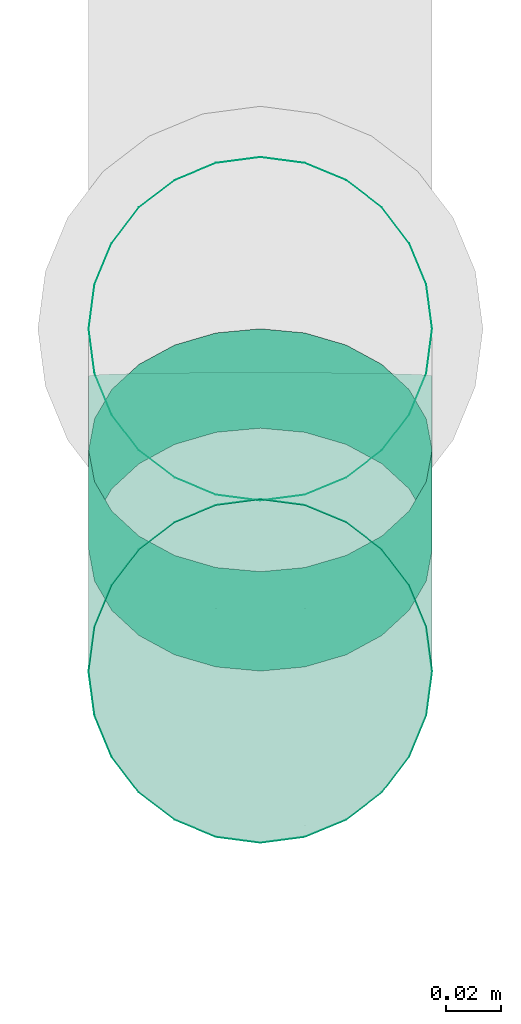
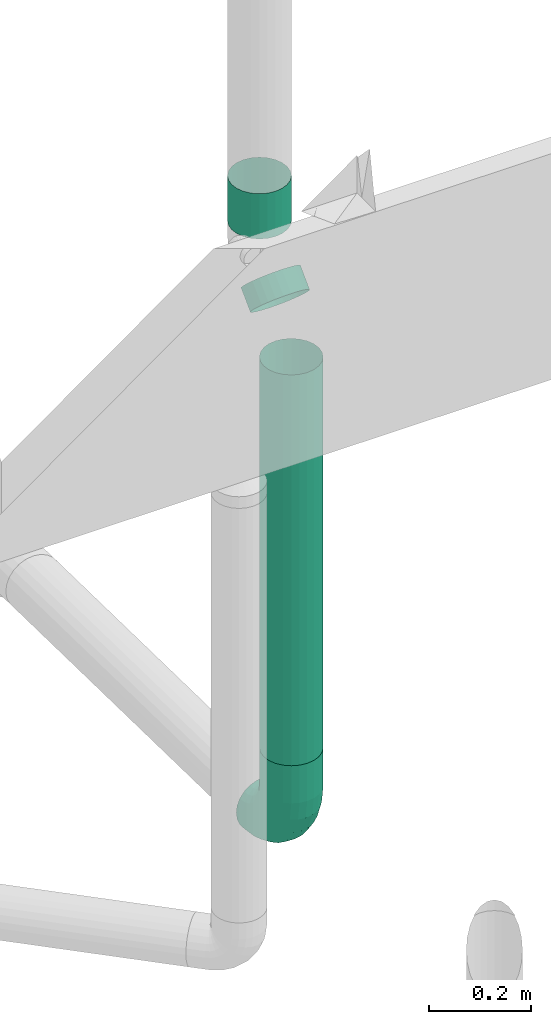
# One storey, part 304 of 374: 3 flow segments, 1 flow fitting.
"""IFC2X3 building model written with IfcOpenShell, lengths in metres."""

from ifc_helpers import new_model, si_unit, direction, origin, place, context, subcontext, project, spatial, open_shell, surface_model, source, transform, mapped, element, save


model = new_model("IFC2X3")

# Units and contexts
model_context = context("Model", 3, precision=1e-05, world=origin(), true_north=direction((-0.4480736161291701, 0.8939966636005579)))
body_context = subcontext(model_context, "Body", "Model", "MODEL_VIEW")
ifc_project = project(units=[si_unit("LENGTHUNIT", "METRE"), si_unit("AREAUNIT", "SQUARE_METRE"), si_unit("VOLUMEUNIT", "CUBIC_METRE"), si_unit("PLANEANGLEUNIT", "RADIAN"), si_unit("THERMODYNAMICTEMPERATUREUNIT", "KELVIN"), si_unit("MASSUNIT", "GRAM", prefix="KILO"), si_unit("TIMEUNIT", "SECOND")], contexts=[model_context])

# Site, building, storey
site_placement = place(None, origin())
site = spatial("IfcSite", under=ifc_project, at=site_placement, Name="Site 1", CompositionType="ELEMENT")
building_placement = place(site_placement, origin())
building = spatial("IfcBuilding", under=site, at=building_placement, Name="Undefined", CompositionType="ELEMENT")
storey_placement = place(building_placement, origin())
storey = spatial("IfcBuildingStorey", under=building, at=storey_placement, Name="Rez de chauss\x8ee", CompositionType="ELEMENT", Elevation=0.0)

# Flow fitting
shared_shape_1 = source(origin(), body_context, "Body", "SurfaceModel", [
    surface_model("IfcFaceBasedSurfaceModel", [(0.0, 0.0163157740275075, 0.0), (0.0, 0.0, 0.0), (0.08999999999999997, 0.0, -7.105427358e-15), (0.08999999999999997, 0.01631577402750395, 0.0), (0.0, -0.015759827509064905, -0.004222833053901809), (0.08999999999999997, -0.015759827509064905, -0.004222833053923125), (0.0, -0.029889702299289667, -0.012380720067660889), (0.08999999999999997, -0.029889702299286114, -0.01238072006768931), (0.0, -0.04142669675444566, -0.02391771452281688), (0.08999999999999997, -0.041426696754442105, -0.023917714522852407), (0.0, -0.04958458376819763, -0.038047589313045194), (0.08999999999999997, -0.04958458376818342, -0.038047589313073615), (0.0, -0.053807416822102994, -0.053807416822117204), (0.08999999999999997, -0.05380741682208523, -0.053807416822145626), (0.0, -0.053807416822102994, -0.07012319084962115), (0.08999999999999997, -0.05380741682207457, -0.07012319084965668), (0.0, -0.04958458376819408, -0.08588301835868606), (0.08999999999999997, -0.049584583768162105, -0.08588301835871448), (0.0, -0.04142669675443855, -0.10001289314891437), (0.08999999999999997, -0.04142669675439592, -0.10001289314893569), (0.0, -0.02988970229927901, -0.11154988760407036), (0.08999999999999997, -0.029889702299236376, -0.11154988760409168), (0.0, -0.015759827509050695, -0.11970777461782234), (0.08999999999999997, -0.01575982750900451, -0.11970777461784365), (0.0, 1.4210854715e-14, -0.12393060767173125), (0.08999999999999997, 6.3948846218e-14, -0.12393060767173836), (0.0, 0.016315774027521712, -0.12393060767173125), (0.08999999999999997, 0.016315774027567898, -0.12393060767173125), (0.0, 0.03207560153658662, -0.11970777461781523), (0.08999999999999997, 0.0320756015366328, -0.11970777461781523), (0.0, 0.04620547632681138, -0.11154988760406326), (0.08999999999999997, 0.04620547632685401, -0.11154988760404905), (0.0, 0.05774247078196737, -0.10001289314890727), (0.08999999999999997, 0.05774247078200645, -0.10001289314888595), (0.0, 0.06590035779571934, -0.08588301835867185), (0.08999999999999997, 0.06590035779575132, -0.08588301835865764), (0.0, 0.0701231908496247, -0.07012319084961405), (0.08999999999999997, 0.07012319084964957, -0.07012319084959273), (0.0, 0.0701231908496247, -0.05380741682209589), (0.08999999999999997, 0.07012319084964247, -0.05380741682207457), (0.0, 0.06590035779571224, -0.03804758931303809), (0.08999999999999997, 0.06590035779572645, -0.03804758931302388), (0.0, 0.05774247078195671, -0.023917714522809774), (0.08999999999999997, 0.05774247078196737, -0.02391771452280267), (0.0, 0.04620547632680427, -0.012380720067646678), (0.08999999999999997, 0.04620547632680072, -0.012380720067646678), (0.0, 0.03207560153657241, -0.004222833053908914), (0.08999999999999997, 0.03207560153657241, -0.004222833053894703), (0.133462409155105, -0.048207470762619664, -0.07086043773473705), (0.13400674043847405, -0.048137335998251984, -0.05455389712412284), (0.17403744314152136, -0.03177965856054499, -0.07302320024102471), (0.17508994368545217, -0.03150377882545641, -0.05674374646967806), (0.20902954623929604, -0.005615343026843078, -0.07646779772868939), (0.2105202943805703, -0.005011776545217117, -0.06023148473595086), (0.23611405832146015, 0.02854727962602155, -0.08096539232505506), (0.23794401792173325, 0.029578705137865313, -0.06478540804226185), (0.2534916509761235, 0.06843865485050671, -0.08621719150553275), (0.2555392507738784, 0.0699696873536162, -0.07010298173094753), (0.2600078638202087, 0.11140864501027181, -0.09187429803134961), (0.262137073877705, 0.11347784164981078, -0.0758309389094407), (0.13186651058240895, -0.04419026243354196, -0.08659319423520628), (0.17095166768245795, -0.028365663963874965, -0.08867654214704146), (0.20465889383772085, -0.0031620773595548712, -0.09199465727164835), (0.23074888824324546, 0.029746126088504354, -0.09632710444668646), (0.24748839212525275, 0.06817272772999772, -0.10138606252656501), (0.2537653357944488, 0.10956490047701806, -0.10683544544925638), (0.12932780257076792, -0.03635947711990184, -0.10068000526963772), (0.1660429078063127, -0.021494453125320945, -0.10263702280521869), (0.19770618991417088, 0.0021808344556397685, -0.10575393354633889), (0.22221413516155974, 0.03309354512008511, -0.10982366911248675), (0.23793858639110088, 0.06919002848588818, -0.11457586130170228), (0.24383490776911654, 0.10807225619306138, -0.11969480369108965), (0.12601929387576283, -0.02524876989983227, -0.11216087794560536), (0.15964568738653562, -0.011634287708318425, -0.11395325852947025), (0.18864524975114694, 0.01004928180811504, -0.11680795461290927), (0.2110914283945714, 0.03836141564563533, -0.12053531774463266), (0.22549303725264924, 0.07142122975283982, -0.12488772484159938), (0.2308933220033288, 0.1070324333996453, -0.12957602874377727), (0.12216645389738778, -0.011615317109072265, -0.12025340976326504), (0.15219596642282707, 0.0005428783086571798, -0.12185406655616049), (0.17809356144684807, 0.01990704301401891, -0.12440340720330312), (0.1981387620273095, 0.04519074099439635, -0.12773206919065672), (0.21099988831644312, 0.07471427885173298, -0.13161891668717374), (0.21582252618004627, 0.10651629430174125, -0.13580573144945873), (0.11803184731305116, 0.0036117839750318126, -0.12440610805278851), (0.1442014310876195, 0.014207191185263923, -0.12580101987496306), (0.1667702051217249, 0.031082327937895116, -0.1280226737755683), (0.18423883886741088, 0.05311611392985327, -0.1309234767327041), (0.19544682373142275, 0.07884475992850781, -0.13431071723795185), (0.19964957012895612, 0.10655901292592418, -0.13795936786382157), (0.11389724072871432, 0.019394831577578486, -0.12433597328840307), (0.13620689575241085, 0.028427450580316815, -0.12552514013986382), (0.15544684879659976, 0.042813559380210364, -0.1274191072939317), (0.17033891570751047, 0.06159743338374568, -0.12989205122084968), (0.1798937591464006, 0.08353118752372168, -0.13277968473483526), (0.18347661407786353, 0.10715767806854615, -0.1358901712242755), (0.11004440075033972, 0.03465823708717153, -0.12004778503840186), (0.12875717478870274, 0.042234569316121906, -0.12104522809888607), (0.14489516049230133, 0.05430127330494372, -0.12263383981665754), (0.15738624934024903, 0.07005671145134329, -0.12470808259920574), (0.16540061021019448, 0.08845418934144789, -0.12713015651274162), (0.16840581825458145, 0.10827149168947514, -0.12973915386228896), (0.1067358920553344, 0.04836182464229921, -0.11183377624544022), (0.12235995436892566, 0.05468761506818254, -0.11266658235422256), (0.1358342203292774, 0.06476260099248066, -0.11399297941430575), (0.14626354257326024, 0.07791746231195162, -0.11572484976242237), (0.15295506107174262, 0.09327827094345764, -0.11774713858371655), (0.15546423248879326, 0.10982454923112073, -0.11992549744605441), (0.10419718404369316, 0.05957171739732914, -0.10025371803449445), (0.11745119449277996, 0.06493793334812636, -0.10096019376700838), (0.12888151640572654, 0.0734846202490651, -0.10208538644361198), (0.13772878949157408, 0.08464398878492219, -0.10355454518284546), (0.14340525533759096, 0.09767467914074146, -0.1052700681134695), (0.14553380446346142, 0.11171101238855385, -0.10711798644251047), (0.10260128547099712, 0.06752397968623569, -0.08609677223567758), (0.11436541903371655, 0.07228698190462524, -0.08672383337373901), (0.12451086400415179, 0.07987293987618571, -0.08772254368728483), (0.13236361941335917, 0.0897778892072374, -0.08902655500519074), (0.1374019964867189, 0.10134380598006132, -0.09054923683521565), (0.13929127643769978, 0.1138023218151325, -0.09218943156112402), (0.10205695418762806, 0.07167667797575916, -0.07032771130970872), (0.11331291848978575, 0.07623393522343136, -0.0709276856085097), (0.12302011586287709, 0.0834922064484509, -0.0718832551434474), (0.13053365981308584, 0.09296929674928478, -0.073130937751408), (0.13535439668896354, 0.10403560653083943, -0.07458784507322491), (0.13716206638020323, 0.11595595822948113, -0.07615718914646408), (0.10260128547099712, 0.0717468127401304, -0.05402117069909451), (0.11436541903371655, 0.07650981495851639, -0.05464823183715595), (0.12451086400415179, 0.08409577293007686, -0.05564694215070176), (0.13236361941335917, 0.09400072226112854, -0.05695095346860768), (0.1374019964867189, 0.10556663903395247, -0.05847363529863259), (0.13929127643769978, 0.11802515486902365, -0.06011383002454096), (0.10419718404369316, 0.06772960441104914, -0.03828841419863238), (0.11745119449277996, 0.07309582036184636, -0.038994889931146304), (0.12888151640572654, 0.0816425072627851, -0.04012008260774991), (0.13772878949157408, 0.09280187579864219, -0.041589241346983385), (0.14340525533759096, 0.10583256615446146, -0.04330476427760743), (0.14553380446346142, 0.11986889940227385, -0.0451526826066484), (0.1067358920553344, 0.05989881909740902, -0.02420160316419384), (0.12235995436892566, 0.0662246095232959, -0.025034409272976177), (0.1358342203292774, 0.07629959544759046, -0.026360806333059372), (0.14626354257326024, 0.08945445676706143, -0.028092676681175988), (0.15295506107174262, 0.104815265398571, -0.03011496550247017), (0.15546423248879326, 0.12136154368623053, -0.03229332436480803), (0.11004440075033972, 0.048788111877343, -0.0127207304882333), (0.12875717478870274, 0.05636444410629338, -0.013718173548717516), (0.14489516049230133, 0.06843114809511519, -0.015306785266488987), (0.15738624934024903, 0.08418658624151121, -0.017381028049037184), (0.16540061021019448, 0.10258406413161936, -0.019803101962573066), (0.16840581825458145, 0.12240136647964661, -0.022412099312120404), (0.11389724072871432, 0.03515465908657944, -0.004628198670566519), (0.13620689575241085, 0.04418727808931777, -0.0058173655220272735), (0.15544684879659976, 0.05857338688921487, -0.0077113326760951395), (0.17033891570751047, 0.07735726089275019, -0.010184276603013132), (0.1798937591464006, 0.0992910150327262, -0.013071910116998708), (0.18347661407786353, 0.12291750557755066, -0.016182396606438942), (0.11803184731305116, 0.019927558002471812, -0.00047550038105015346), (0.1442014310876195, 0.030522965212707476, -0.0018704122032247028), (0.1667702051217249, 0.047398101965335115, -0.00409206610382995), (0.18423883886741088, 0.06943188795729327, -0.006992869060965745), (0.19544682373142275, 0.09516053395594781, -0.010380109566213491), (0.19964957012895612, 0.12287478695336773, -0.014028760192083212), (0.12216645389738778, 0.004144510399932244, -0.0005456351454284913), (0.15219596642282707, 0.016302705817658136, -0.002146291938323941), (0.17809356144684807, 0.03566687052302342, -0.004695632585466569), (0.1981387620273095, 0.06095056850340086, -0.008024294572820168), (0.21099988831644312, 0.0904741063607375, -0.011911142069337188), (0.21582252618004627, 0.12227612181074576, -0.016097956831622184), (0.12601929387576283, -0.01111889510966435, -0.004833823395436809), (0.15964568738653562, 0.002495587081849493, -0.0066262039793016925), (0.18864524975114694, 0.02417915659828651, -0.009480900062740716), (0.2110914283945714, 0.0524912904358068, -0.01320826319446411), (0.22549303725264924, 0.08555110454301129, -0.017560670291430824), (0.2308933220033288, 0.12116230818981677, -0.022248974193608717), (0.12932780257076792, -0.02482248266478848, -0.01304783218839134), (0.1660429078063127, -0.009957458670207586, -0.015004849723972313), (0.19770618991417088, 0.013717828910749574, -0.018121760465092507), (0.22221413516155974, 0.044630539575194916, -0.022191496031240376), (0.23793858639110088, 0.08072702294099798, -0.026943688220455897), (0.24383490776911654, 0.11960925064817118, -0.03206263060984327), (0.13186651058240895, -0.03603237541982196, -0.02462789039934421), (0.17095166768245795, -0.020207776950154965, -0.026711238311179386), (0.20465889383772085, 0.004995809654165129, -0.030029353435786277), (0.23074888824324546, 0.037904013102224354, -0.03436180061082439), (0.24748839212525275, 0.07633061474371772, -0.03942075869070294), (0.2537653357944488, 0.11772278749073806, -0.04487014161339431), (0.133462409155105, -0.04398463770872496, -0.03878483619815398), (0.17403744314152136, -0.027556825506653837, -0.040947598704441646), (0.20902954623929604, -0.0013925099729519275, -0.044392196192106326), (0.23611405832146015, 0.0327701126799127, -0.048889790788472), (0.2534916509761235, 0.07266148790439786, -0.05414158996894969), (0.2600078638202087, 0.11563147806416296, -0.059798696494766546)], [open_shell([[[0, 1, 2, 3]], [[1, 4, 5, 2]], [[4, 6, 7, 5]], [[6, 8, 9, 7]], [[8, 10, 11, 9]], [[10, 12, 13, 11]], [[12, 14, 15, 13]], [[14, 16, 17, 15]], [[16, 18, 19, 17]], [[18, 20, 21, 19]], [[20, 22, 23, 21]], [[22, 24, 25, 23]], [[24, 26, 27, 25]], [[26, 28, 29, 27]], [[28, 30, 31, 29]], [[30, 32, 33, 31]], [[32, 34, 35, 33]], [[34, 36, 37, 35]], [[36, 38, 39, 37]], [[38, 40, 41, 39]], [[40, 42, 43, 41]], [[42, 44, 45, 43]], [[44, 46, 47, 45]], [[46, 0, 3, 47]], [[13, 15, 48, 49]], [[49, 48, 50, 51]], [[51, 50, 52, 53]], [[53, 52, 54, 55]], [[55, 54, 56, 57]], [[57, 56, 58, 59]], [[15, 17, 60, 48]], [[48, 60, 61, 50]], [[50, 61, 62, 52]], [[52, 62, 63, 54]], [[54, 63, 64, 56]], [[56, 64, 65, 58]], [[17, 19, 66, 60]], [[60, 66, 67, 61]], [[61, 67, 68, 62]], [[62, 68, 69, 63]], [[63, 69, 70, 64]], [[64, 70, 71, 65]], [[19, 21, 72, 66]], [[66, 72, 73, 67]], [[67, 73, 74, 68]], [[68, 74, 75, 69]], [[69, 75, 76, 70]], [[70, 76, 77, 71]], [[21, 23, 78, 72]], [[72, 78, 79, 73]], [[73, 79, 80, 74]], [[74, 80, 81, 75]], [[75, 81, 82, 76]], [[76, 82, 83, 77]], [[23, 25, 84, 78]], [[78, 84, 85, 79]], [[79, 85, 86, 80]], [[80, 86, 87, 81]], [[81, 87, 88, 82]], [[82, 88, 89, 83]], [[25, 27, 90, 84]], [[84, 90, 91, 85]], [[85, 91, 92, 86]], [[86, 92, 93, 87]], [[87, 93, 94, 88]], [[88, 94, 95, 89]], [[27, 29, 96, 90]], [[90, 96, 97, 91]], [[91, 97, 98, 92]], [[92, 98, 99, 93]], [[93, 99, 100, 94]], [[94, 100, 101, 95]], [[29, 31, 102, 96]], [[96, 102, 103, 97]], [[97, 103, 104, 98]], [[98, 104, 105, 99]], [[99, 105, 106, 100]], [[100, 106, 107, 101]], [[31, 33, 108, 102]], [[102, 108, 109, 103]], [[103, 109, 110, 104]], [[104, 110, 111, 105]], [[105, 111, 112, 106]], [[106, 112, 113, 107]], [[33, 35, 114, 108]], [[108, 114, 115, 109]], [[109, 115, 116, 110]], [[110, 116, 117, 111]], [[111, 117, 118, 112]], [[112, 118, 119, 113]], [[35, 37, 120, 114]], [[114, 120, 121, 115]], [[115, 121, 122, 116]], [[116, 122, 123, 117]], [[117, 123, 124, 118]], [[118, 124, 125, 119]], [[37, 39, 126, 120]], [[120, 126, 127, 121]], [[121, 127, 128, 122]], [[122, 128, 129, 123]], [[123, 129, 130, 124]], [[124, 130, 131, 125]], [[39, 41, 132, 126]], [[126, 132, 133, 127]], [[127, 133, 134, 128]], [[128, 134, 135, 129]], [[129, 135, 136, 130]], [[130, 136, 137, 131]], [[41, 43, 138, 132]], [[132, 138, 139, 133]], [[133, 139, 140, 134]], [[134, 140, 141, 135]], [[135, 141, 142, 136]], [[136, 142, 143, 137]], [[43, 45, 144, 138]], [[138, 144, 145, 139]], [[139, 145, 146, 140]], [[140, 146, 147, 141]], [[141, 147, 148, 142]], [[142, 148, 149, 143]], [[45, 47, 150, 144]], [[144, 150, 151, 145]], [[145, 151, 152, 146]], [[146, 152, 153, 147]], [[147, 153, 154, 148]], [[148, 154, 155, 149]], [[47, 3, 156, 150]], [[150, 156, 157, 151]], [[151, 157, 158, 152]], [[152, 158, 159, 153]], [[153, 159, 160, 154]], [[154, 160, 161, 155]], [[3, 2, 162, 156]], [[156, 162, 163, 157]], [[157, 163, 164, 158]], [[158, 164, 165, 159]], [[159, 165, 166, 160]], [[160, 166, 167, 161]], [[2, 5, 168, 162]], [[162, 168, 169, 163]], [[163, 169, 170, 164]], [[164, 170, 171, 165]], [[165, 171, 172, 166]], [[166, 172, 173, 167]], [[5, 7, 174, 168]], [[168, 174, 175, 169]], [[169, 175, 176, 170]], [[170, 176, 177, 171]], [[171, 177, 178, 172]], [[172, 178, 179, 173]], [[7, 9, 180, 174]], [[174, 180, 181, 175]], [[175, 181, 182, 176]], [[176, 182, 183, 177]], [[177, 183, 184, 178]], [[178, 184, 185, 179]], [[9, 11, 186, 180]], [[180, 186, 187, 181]], [[181, 187, 188, 182]], [[182, 188, 189, 183]], [[183, 189, 190, 184]], [[184, 190, 191, 185]], [[11, 13, 49, 186]], [[186, 49, 51, 187]], [[187, 51, 53, 188]], [[188, 53, 55, 189]], [[189, 55, 57, 190]], [[190, 57, 59, 191]]])]),
])
flow_fitting_placement = place(storey_placement, origin())
element("IfcFlowFitting", 1, at=flow_fitting_placement, inside=storey, Name="PE-HD coude 90° à grand rayon", ObjectType="PE-HD coude 90° à grand rayon", context=body_context, shape_type="MappedRepresentation", body=[
    mapped(shared_shape_1, transform((58.88526362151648, 13.624243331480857, -0.9339237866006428), x_axis=(0.0, 0.0, -1.0), y_axis=(0.13052619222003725, 0.9914448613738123, 0.0), z_axis=(0.9914448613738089, -0.13052619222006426, 0.0))),
])

# Flow segments
shared_shape_2 = source(origin(), body_context, "Body", "SurfaceModel", [
    surface_model("IfcFaceBasedSurfaceModel", [(0.0, 0.0163157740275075, 0.0), (0.0, 0.0, 0.0), (0.05117117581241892, 0.0, 7.105427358e-15), (0.05117117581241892, 0.0163157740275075, 0.0), (0.0, -0.015759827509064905, -0.004222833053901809), (0.05117117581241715, -0.0157598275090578, -0.00422283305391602), (0.0, -0.029889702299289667, -0.012380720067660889), (0.05117117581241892, -0.029889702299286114, -0.012380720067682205), (0.0, -0.04142669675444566, -0.02391771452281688), (0.05117117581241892, -0.041426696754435, -0.0239177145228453), (0.0, -0.04958458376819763, -0.038047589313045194), (0.05117117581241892, -0.049584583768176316, -0.038047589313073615), (0.0, -0.053807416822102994, -0.053807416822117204), (0.05117117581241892, -0.05380741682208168, -0.053807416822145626), (0.0, -0.053807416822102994, -0.07012319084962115), (0.05117117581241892, -0.05380741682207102, -0.07012319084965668), (0.0, -0.04958458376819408, -0.08588301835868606), (0.05117117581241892, -0.049584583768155, -0.08588301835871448), (0.0, -0.04142669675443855, -0.10001289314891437), (0.05117117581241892, -0.04142669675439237, -0.10001289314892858), (0.0, -0.02988970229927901, -0.11154988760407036), (0.05117117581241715, -0.02988970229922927, -0.11154988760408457), (0.0, -0.015759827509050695, -0.11970777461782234), (0.05117117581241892, -0.015759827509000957, -0.11970777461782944), (0.0, 1.4210854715e-14, -0.12393060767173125), (0.05117117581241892, 6.7501559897e-14, -0.12393060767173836), (0.0, 0.016315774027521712, -0.12393060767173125), (0.05117117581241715, 0.016315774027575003, -0.12393060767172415), (0.0, 0.03207560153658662, -0.11970777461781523), (0.05117117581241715, 0.032075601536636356, -0.11970777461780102), (0.0, 0.04620547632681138, -0.11154988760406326), (0.05117117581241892, 0.046205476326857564, -0.11154988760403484), (0.0, 0.05774247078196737, -0.10001289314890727), (0.05117117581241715, 0.05774247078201, -0.10001289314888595), (0.0, 0.06590035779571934, -0.08588301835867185), (0.05117117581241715, 0.06590035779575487, -0.08588301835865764), (0.0, 0.0701231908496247, -0.07012319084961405), (0.05117117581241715, 0.07012319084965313, -0.07012319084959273), (0.0, 0.0701231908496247, -0.05380741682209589), (0.05117117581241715, 0.07012319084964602, -0.05380741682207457), (0.0, 0.06590035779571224, -0.03804758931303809), (0.05117117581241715, 0.06590035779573, -0.03804758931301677), (0.0, 0.05774247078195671, -0.023917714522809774), (0.05117117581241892, 0.05774247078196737, -0.023917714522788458), (0.0, 0.04620547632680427, -0.012380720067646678), (0.05117117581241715, 0.046205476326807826, -0.012380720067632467), (0.0, 0.03207560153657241, -0.004222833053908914), (0.05117117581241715, 0.03207560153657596, -0.004222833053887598)], [open_shell([[[0, 1, 2, 3]], [[1, 4, 5, 2]], [[4, 6, 7, 5]], [[6, 8, 9, 7]], [[8, 10, 11, 9]], [[10, 12, 13, 11]], [[12, 14, 15, 13]], [[14, 16, 17, 15]], [[16, 18, 19, 17]], [[18, 20, 21, 19]], [[20, 22, 23, 21]], [[22, 24, 25, 23]], [[24, 26, 27, 25]], [[26, 28, 29, 27]], [[28, 30, 31, 29]], [[30, 32, 33, 31]], [[32, 34, 35, 33]], [[34, 36, 37, 35]], [[36, 38, 39, 37]], [[38, 40, 41, 39]], [[40, 42, 43, 41]], [[42, 44, 45, 43]], [[44, 46, 47, 45]], [[46, 0, 3, 47]]])]),
])
flow_segment_1_placement = place(storey_placement, origin())
element("IfcFlowSegment", 2, at=flow_segment_1_placement, inside=storey, Name="PE-HD tuyau", ObjectType="PE-HD tuyau", context=body_context, shape_type="MappedRepresentation", body=[
    mapped(shared_shape_2, transform((58.88526362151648, 13.709380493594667, 0.15430917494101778), x_axis=(0.0, -0.7069896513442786, -0.7072238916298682), y_axis=(0.13052619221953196, 0.7011734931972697, -0.7009412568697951), z_axis=(0.9914448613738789, -0.09231124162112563, 0.0922806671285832))),
])
shared_shape_3 = source(origin(), body_context, "Body", "SurfaceModel", [
    surface_model("IfcFaceBasedSurfaceModel", [(0.0, 0.0163157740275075, 0.0), (0.0, 0.0, 0.0), (0.10814484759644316, 0.0, 7.105427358e-15), (0.10814484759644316, 0.0163157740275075, 0.0), (0.0, -0.015759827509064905, -0.004222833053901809), (0.10814484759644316, -0.015759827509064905, -0.004222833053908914), (0.0, -0.029889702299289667, -0.012380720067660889), (0.10814484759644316, -0.029889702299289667, -0.012380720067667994), (0.0, -0.04142669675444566, -0.02391771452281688), (0.10814484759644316, -0.04142669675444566, -0.02391771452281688), (0.0, -0.04958458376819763, -0.038047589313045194), (0.10814484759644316, -0.04958458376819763, -0.038047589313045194), (0.0, -0.053807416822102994, -0.053807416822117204), (0.10814484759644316, -0.053807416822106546, -0.0538074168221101), (0.0, -0.053807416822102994, -0.07012319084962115), (0.10814484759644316, -0.053807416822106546, -0.07012319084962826), (0.0, -0.04958458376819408, -0.08588301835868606), (0.10814484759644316, -0.04958458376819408, -0.08588301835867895), (0.0, -0.04142669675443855, -0.10001289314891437), (0.10814484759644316, -0.04142669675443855, -0.10001289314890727), (0.0, -0.02988970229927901, -0.11154988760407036), (0.10814484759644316, -0.02988970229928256, -0.11154988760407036), (0.0, -0.015759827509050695, -0.11970777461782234), (0.10814484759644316, -0.015759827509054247, -0.11970777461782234), (0.0, 1.4210854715e-14, -0.12393060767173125), (0.10814484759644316, 1.0658141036e-14, -0.12393060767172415), (0.0, 0.016315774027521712, -0.12393060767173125), (0.10814484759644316, 0.016315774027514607, -0.12393060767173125), (0.0, 0.03207560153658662, -0.11970777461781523), (0.10814484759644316, 0.032075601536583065, -0.11970777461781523), (0.0, 0.04620547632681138, -0.11154988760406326), (0.10814484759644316, 0.046205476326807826, -0.11154988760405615), (0.0, 0.05774247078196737, -0.10001289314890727), (0.10814484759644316, 0.05774247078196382, -0.10001289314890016), (0.0, 0.06590035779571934, -0.08588301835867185), (0.10814484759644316, 0.06590035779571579, -0.08588301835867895), (0.0, 0.0701231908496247, -0.07012319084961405), (0.10814484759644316, 0.0701231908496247, -0.07012319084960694), (0.0, 0.0701231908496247, -0.05380741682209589), (0.10814484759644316, 0.0701231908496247, -0.05380741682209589), (0.0, 0.06590035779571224, -0.03804758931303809), (0.10814484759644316, 0.06590035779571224, -0.03804758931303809), (0.0, 0.05774247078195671, -0.023917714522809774), (0.10814484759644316, 0.05774247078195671, -0.02391771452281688), (0.0, 0.04620547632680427, -0.012380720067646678), (0.10814484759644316, 0.04620547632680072, -0.012380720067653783), (0.0, 0.03207560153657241, -0.004222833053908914), (0.10814484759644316, 0.03207560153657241, -0.004222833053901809)], [open_shell([[[0, 1, 2, 3]], [[1, 4, 5, 2]], [[4, 6, 7, 5]], [[6, 8, 9, 7]], [[8, 10, 11, 9]], [[10, 12, 13, 11]], [[12, 14, 15, 13]], [[14, 16, 17, 15]], [[16, 18, 19, 17]], [[18, 20, 21, 19]], [[20, 22, 23, 21]], [[22, 24, 25, 23]], [[24, 26, 27, 25]], [[26, 28, 29, 27]], [[28, 30, 31, 29]], [[30, 32, 33, 31]], [[32, 34, 35, 33]], [[34, 36, 37, 35]], [[36, 38, 39, 37]], [[38, 40, 41, 39]], [[40, 42, 43, 41]], [[42, 44, 45, 43]], [[44, 46, 47, 45]], [[46, 0, 3, 47]]])]),
])
flow_segment_2_placement = place(storey_placement, origin())
element("IfcFlowSegment", 3, at=flow_segment_2_placement, inside=storey, Name="PE-HD tuyau", ObjectType="PE-HD tuyau", context=body_context, shape_type="MappedRepresentation", body=[
    mapped(shared_shape_3, transform((58.764522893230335, 13.781176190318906, 0.3577009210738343), x_axis=(0.0, 0.0, -1.0), y_axis=(-0.13052619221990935, -0.9914448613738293, 0.0), z_axis=(-0.9914448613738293, 0.13052619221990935, 0.0))),
])
shared_shape_4 = source(origin(), body_context, "Body", "SurfaceModel", [
    surface_model("IfcFaceBasedSurfaceModel", [(0.0, 0.0163157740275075, 0.0), (0.0, 0.0, 0.0), (0.9340000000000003, -3.552713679e-15, 0.0), (0.9340000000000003, 0.01631577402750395, 0.0), (0.0, -0.015759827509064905, -0.004222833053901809), (0.9340000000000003, -0.015759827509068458, -0.00422283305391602), (0.0, -0.029889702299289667, -0.012380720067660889), (0.9340000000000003, -0.02988970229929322, -0.0123807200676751), (0.0, -0.04142669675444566, -0.02391771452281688), (0.9340000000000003, -0.04142669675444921, -0.023917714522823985), (0.0, -0.04958458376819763, -0.038047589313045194), (0.9340000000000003, -0.049584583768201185, -0.0380475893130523), (0.0, -0.053807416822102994, -0.053807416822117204), (0.9340000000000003, -0.053807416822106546, -0.053807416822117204), (0.0, -0.053807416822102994, -0.07012319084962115), (0.9340000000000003, -0.0538074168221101, -0.07012319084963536), (0.0, -0.04958458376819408, -0.08588301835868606), (0.9340000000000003, -0.04958458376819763, -0.08588301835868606), (0.0, -0.04142669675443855, -0.10001289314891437), (0.9340000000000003, -0.041426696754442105, -0.10001289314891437), (0.0, -0.02988970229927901, -0.11154988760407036), (0.9340000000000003, -0.029889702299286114, -0.11154988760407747), (0.0, -0.015759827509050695, -0.11970777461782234), (0.9340000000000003, -0.0157598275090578, -0.11970777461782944), (0.0, 1.4210854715e-14, -0.12393060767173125), (0.9340000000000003, 7.105427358e-15, -0.12393060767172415), (0.0, 0.016315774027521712, -0.12393060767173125), (0.9340000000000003, 0.016315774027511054, -0.12393060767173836), (0.0, 0.03207560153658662, -0.11970777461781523), (0.9340000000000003, 0.03207560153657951, -0.11970777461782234), (0.0, 0.04620547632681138, -0.11154988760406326), (0.9340000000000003, 0.04620547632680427, -0.11154988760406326), (0.0, 0.05774247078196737, -0.10001289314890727), (0.9340000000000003, 0.05774247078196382, -0.10001289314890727), (0.0, 0.06590035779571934, -0.08588301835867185), (0.9340000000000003, 0.06590035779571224, -0.08588301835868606), (0.0, 0.0701231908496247, -0.07012319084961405), (0.9340000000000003, 0.07012319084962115, -0.07012319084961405), (0.0, 0.0701231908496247, -0.05380741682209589), (0.9340000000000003, 0.0701231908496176, -0.053807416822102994), (0.0, 0.06590035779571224, -0.03804758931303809), (0.9340000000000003, 0.06590035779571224, -0.038047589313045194), (0.0, 0.05774247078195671, -0.023917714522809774), (0.9340000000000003, 0.05774247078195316, -0.023917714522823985), (0.0, 0.04620547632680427, -0.012380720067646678), (0.9340000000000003, 0.04620547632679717, -0.012380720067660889), (0.0, 0.03207560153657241, -0.004222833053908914), (0.9340000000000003, 0.032075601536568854, -0.004222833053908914)], [open_shell([[[0, 1, 2, 3]], [[1, 4, 5, 2]], [[4, 6, 7, 5]], [[6, 8, 9, 7]], [[8, 10, 11, 9]], [[10, 12, 13, 11]], [[12, 14, 15, 13]], [[14, 16, 17, 15]], [[16, 18, 19, 17]], [[18, 20, 21, 19]], [[20, 22, 23, 21]], [[22, 24, 25, 23]], [[24, 26, 27, 25]], [[26, 28, 29, 27]], [[28, 30, 31, 29]], [[30, 32, 33, 31]], [[32, 34, 35, 33]], [[34, 36, 37, 35]], [[36, 38, 39, 37]], [[38, 40, 41, 39]], [[40, 42, 43, 41]], [[42, 44, 45, 43]], [[44, 46, 47, 45]], [[46, 0, 3, 47]]])]),
])
flow_segment_3_placement = place(storey_placement, origin())
element("IfcFlowSegment", 4, at=flow_segment_3_placement, inside=storey, Name="PE-HD tuyau", ObjectType="PE-HD tuyau", context=body_context, shape_type="MappedRepresentation", body=[
    mapped(shared_shape_4, transform((58.764522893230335, 13.656640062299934, 5.226942e-18), x_axis=(0.0, 0.0, -1.0), y_axis=(-0.13052619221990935, -0.9914448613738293, 0.0), z_axis=(-0.9914448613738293, 0.13052619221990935, 0.0))),
])

save(model, "model.ifc")
